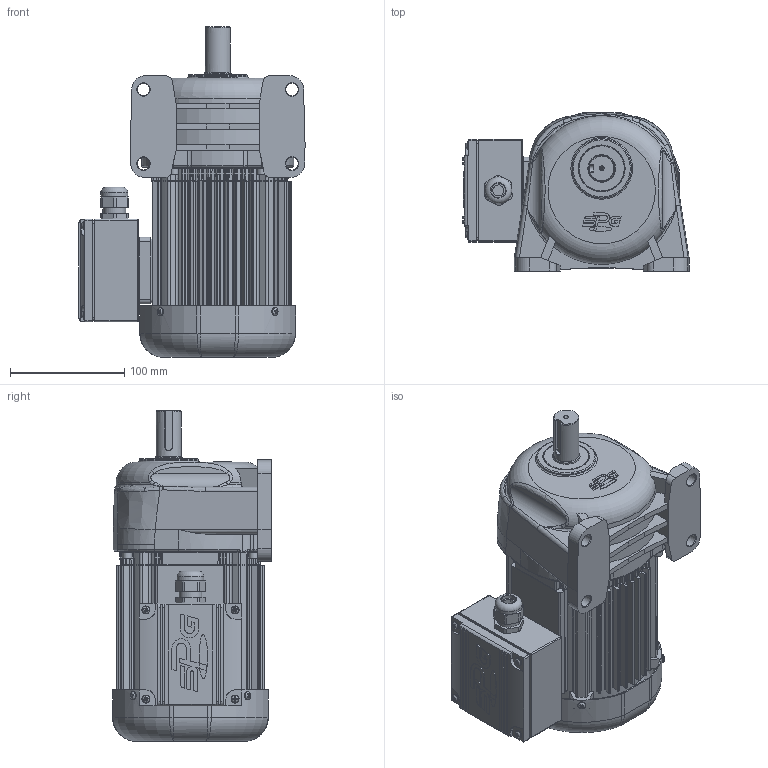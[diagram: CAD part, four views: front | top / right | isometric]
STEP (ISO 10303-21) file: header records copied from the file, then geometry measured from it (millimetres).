
FILE_DESCRIPTION(/* description */ (''),/* implementation_level */ '2;1');
FILE_NAME(/* name */ 'Z:\동력 3D 파일\PAL22-(30~100)-MA(B)020[ ]L (마스터).stp',/* time_stamp */ '2021-08-25T14:24:37+09:00',/* author */ ('jaebok'),/* organization */ (''),/* preprocessor_version */ 'ST-DEVELOPER v18.1',/* originating_system */ 'Autodesk Inventor 2022',/* authorisation */ '');
FILE_SCHEMA (('AUTOMOTIVE_DESIGN { 1 0 10303 214 3 1 1 }'));
Products named in the file (1): 부품37
Bounding box: 198 x 139.2 x 289.5 mm (x, y, z)
Volume: 1316159.1 mm3; surface area: 470878.4 mm2
Topology: 2 solids, 30 shells, 2786 faces, 7133 edges, 4278 vertices
Faces by surface type: plane 885, cylinder 731, bspline 673, torus 279, cone 160, sphere 58
Full cylindrical faces by diameter (mm): 2 x1, 3.242 x9, 3.25 x1, 3.6 x4, 4 x21, 4.2 x4, 4.917 x4, 5 x19, 5.386 x4, 5.5 x4, 6 x8, 7 x12, 8 x4, 8.5 x4, 10 x1, 11 x4, 12.5 x1, 13 x1, 14 x1, 15 x1, 20 x3, 21 x1, 22 x2, 23.6 x2, 24 x1, 25 x1, 27 x1, 28 x1, 30 x1, 31 x1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
Entity records: 115765 total; most frequent: CARTESIAN_POINT 50089, ORIENTED_EDGE 13856, DIRECTION 12097, EDGE_CURVE 6928, AXIS2_PLACEMENT_3D 4874, VERTEX_POINT 4278, EDGE_LOOP 2963, FACE_OUTER_BOUND 2786
